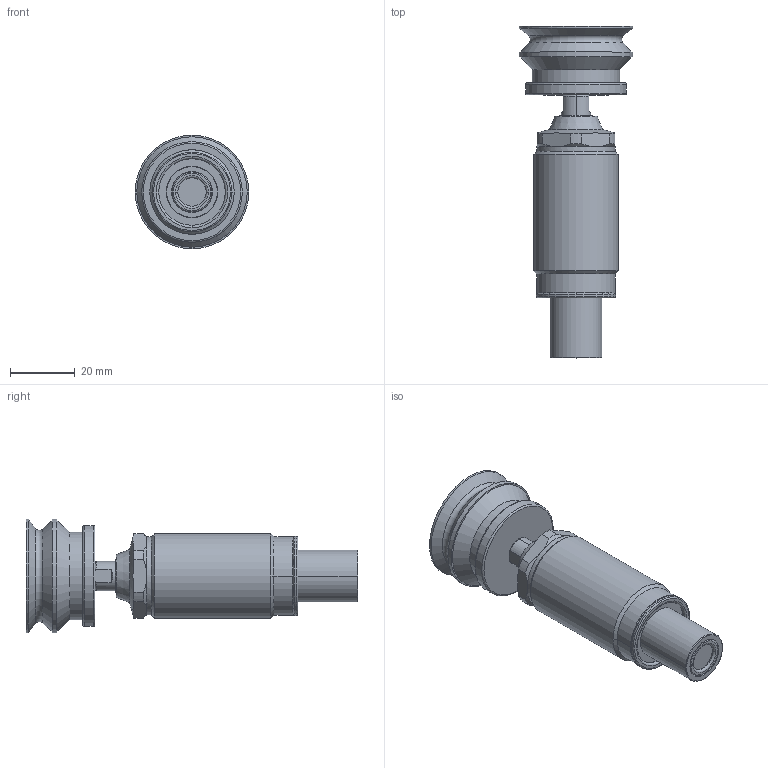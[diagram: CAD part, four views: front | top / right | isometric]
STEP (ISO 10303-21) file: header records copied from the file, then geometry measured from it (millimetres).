
FILE_DESCRIPTION(/* description */ (''),/* implementation_level */ '2;1');
FILE_NAME(/* name */ 'TNL26-QD-35加长吸附型_stp.stp',/* time_stamp */ '2026-08-07T12:59:43+08:00',/* author */ (''),/* organization */ (''),/* preprocessor_version */ 'ST-DEVELOPER v16.7',/* originating_system */ 'SIEMENS PLM Software NX 12.0',/* authorisation */ '');
FILE_SCHEMA (('AUTOMOTIVE_DESIGN { 1 0 10303 214 3 1 1 1 }'));
Length unit declared in the file: millimetre
Products named in the file (6): TNL26-D35-10; TNL26-Q-5958; TNL26-Q-4959; TNL26-Q-2960; TNL26-Q-1961; TNL26-Q-D加长吸附型_stp
Assembly tree (5 placements, depth 2):
  TNL26-Q-D加长吸附型_stp
    TNL26-Q-1961
    TNL26-Q-2960
    TNL26-Q-4959
    TNL26-Q-5958
    TNL26-D35-10
Bounding box: 35 x 102.2 x 35 mm (x, y, z)
Volume: 41491.8 mm3; surface area: 18462.3 mm2
Topology: 8 solids, 8 shells, 172 faces, 369 edges, 226 vertices
Faces by surface type: plane 58, cylinder 51, torus 38, cone 24, bspline 1
Full cylindrical faces by diameter (mm): 2 x2, 3.5 x1, 6 x2, 10.3 x2, 15.7 x1, 16 x1, 20 x3, 23 x2, 24.2 x1, 26 x1, 27 x1, 27.4 x1, 31 x1, 35 x2
Entity records: 4683 total; most frequent: CARTESIAN_POINT 887, DIRECTION 850, ORIENTED_EDGE 632, AXIS2_PLACEMENT_3D 387, EDGE_CURVE 316, EDGE_LOOP 243, VERTEX_POINT 216, CIRCLE 208
